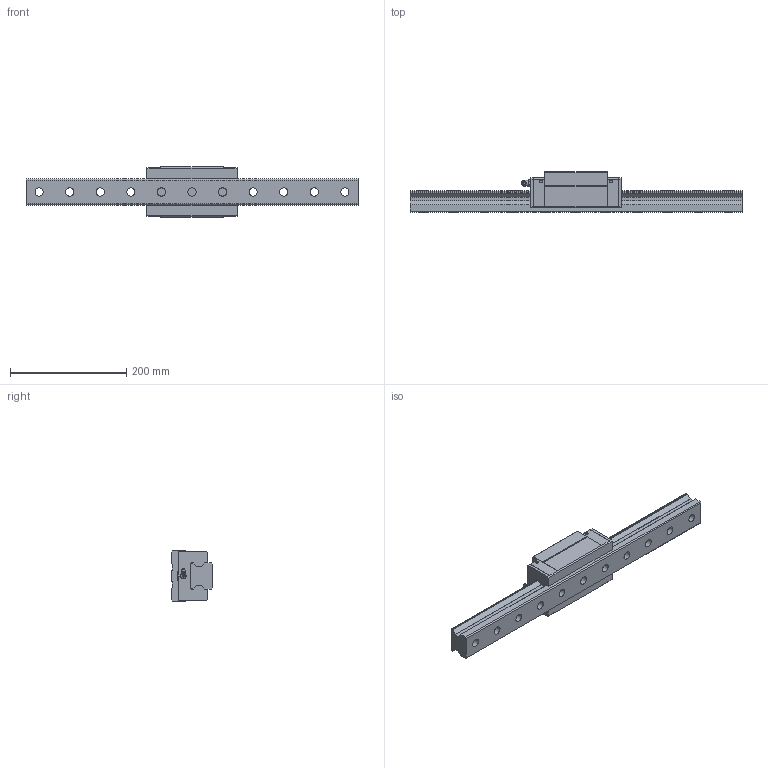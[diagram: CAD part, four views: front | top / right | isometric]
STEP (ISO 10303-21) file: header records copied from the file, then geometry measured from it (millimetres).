
FILE_DESCRIPTION(/* description */ ('STEP AP203'),/* implementation_level */ '2;1');
FILE_NAME(/* name */ 'SRG45R1SS-570LH_G22-5_0_B-PT18_207-5_0_0_0_1',/* time_stamp */ '2024-05-23T10:21:44+02:00',/* author */ ('License CC BY-ND 4.0'),/* organization */ ('CADENAS'),/* preprocessor_version */ 'ST-DEVELOPER v19.3',/* originating_system */ 'PARTsolutions',/* authorisation */ ' ');
FILE_SCHEMA (('CONFIG_CONTROL_DESIGN'));
Length unit declared in the file: millimetre
Products named in the file (4): SRG45R1SS-570LH_G22-5_0_B-PT18_207-5_0_0_0_1; SRG45R57022.5 Track-1; SRG45RSSB-PT1/81 Slide25-55; SRG-B-PT1/8_grease_nipple_joint
Assembly tree (3 placements, depth 2):
  SRG45R1SS-570LH_G22-5_0_B-PT18_207-5_0_0_0_1
    SRG45R57022.5 Track-1
    SRG45RSSB-PT1/81 Slide25-55
    SRG-B-PT1/8_grease_nipple_joint
Bounding box: 570 x 70 x 86 mm (x, y, z)
Volume: 1341666.1 mm3; surface area: 187446.3 mm2
Topology: 3 solids, 3 shells, 214 faces, 535 edges, 348 vertices
Faces by surface type: plane 140, cylinder 47, cone 22, torus 3, sphere 2
Full cylindrical faces by diameter (mm): 5.2 x4, 8.376 x6, 9.6 x1, 10.2 x2, 14 x11, 20 x11
Entity records: 6156 total; most frequent: CARTESIAN_POINT 1149, DIRECTION 990, ORIENTED_EDGE 922, EDGE_CURVE 461, VERTEX_POINT 342, AXIS2_PLACEMENT_3D 338, FACE_BOUND 325, EDGE_LOOP 319
